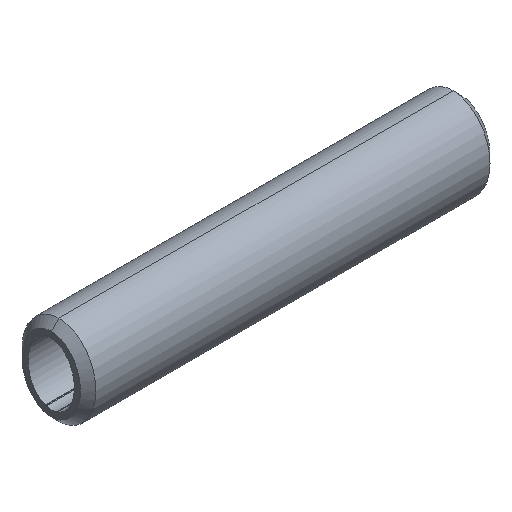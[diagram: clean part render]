
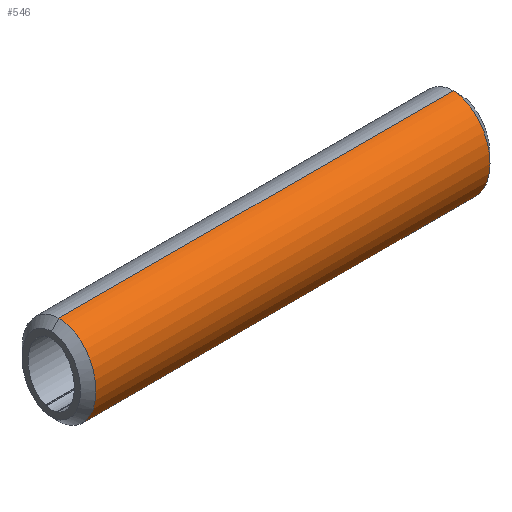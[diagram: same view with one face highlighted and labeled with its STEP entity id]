
A CAD part, isometric view. The second image highlights one B-rep face of the part: STEP entity #546.
In plain terms, the highlighted free-form (B-spline) face has degree [3, 1] with [4, 2] control points.
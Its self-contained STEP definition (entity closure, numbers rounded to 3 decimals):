
#63 = VECTOR ( 'NONE', #417, 1000. ) ;
#77 = LINE ( 'NONE', #416, #63 ) ;
#103 = LINE ( 'NONE', #491, #108 ) ;
#108 = VECTOR ( 'NONE', #492, 1000. ) ;
#116 = FACE_OUTER_BOUND ( 'NONE', #295, .T. ) ;
#171 = VERTEX_POINT ( 'NONE', #205 ) ;
#172 = VERTEX_POINT ( 'NONE', #258 ) ;
#205 = CARTESIAN_POINT ( 'NONE',  ( 2.5, 0., 14.5 ) ) ;
#209 = VERTEX_POINT ( 'NONE', #256 ) ;
#212 = VERTEX_POINT ( 'NONE', #570 ) ;
#220 =( BOUNDED_CURVE ( )  B_SPLINE_CURVE ( 3, ( #884, #885, #886, #887 ),
 .UNSPECIFIED., .F., .T. ) 
 B_SPLINE_CURVE_WITH_KNOTS ( ( 4, 4 ),
 ( 0.5, 1. ),
 .UNSPECIFIED. ) 
 CURVE ( )  GEOMETRIC_REPRESENTATION_ITEM ( )  RATIONAL_B_SPLINE_CURVE ( ( 1., 0.333, 0.333, 1. ) ) 
 REPRESENTATION_ITEM ( '' )  );
#230 =( BOUNDED_CURVE ( )  B_SPLINE_CURVE ( 3, ( #606, #607, #608, #609 ),
 .UNSPECIFIED., .F., .T. ) 
 B_SPLINE_CURVE_WITH_KNOTS ( ( 4, 4 ),
 ( 0., 0.5 ),
 .UNSPECIFIED. ) 
 CURVE ( )  GEOMETRIC_REPRESENTATION_ITEM ( )  RATIONAL_B_SPLINE_CURVE ( ( 1., 0.333, 0.333, 1. ) ) 
 REPRESENTATION_ITEM ( '' )  );
#240 =( BOUNDED_SURFACE ( )  B_SPLINE_SURFACE ( 3, 1, ( 
 ( #1084, #1085 ),
 ( #1086, #1087 ),
 ( #1088, #1089 ),
 ( #1090, #1091 ) ),
 .UNSPECIFIED., .F., .F., .F. ) 
 B_SPLINE_SURFACE_WITH_KNOTS ( ( 4, 4 ),
 ( 2, 2 ),
 ( 0., 1. ),
 ( 0., 1. ),
 .UNSPECIFIED. ) 
 GEOMETRIC_REPRESENTATION_ITEM ( )  RATIONAL_B_SPLINE_SURFACE ( (
 ( 1., 1.),
 ( 0.333, 0.333),
 ( 0.333, 0.333),
 ( 1., 1.) ) ) 
 REPRESENTATION_ITEM ( '' )  SURFACE ( )  );
#256 = CARTESIAN_POINT ( 'NONE',  ( 130.5, 0., -14.5 ) ) ;
#258 = CARTESIAN_POINT ( 'NONE',  ( 2.5, 0., -14.5 ) ) ;
#274 = ORIENTED_EDGE ( 'NONE', *, *, #1056, .T. ) ;
#295 = EDGE_LOOP ( 'NONE', ( #314, #296, #274, #298 ) ) ;
#296 = ORIENTED_EDGE ( 'NONE', *, *, #1001, .T. ) ;
#298 = ORIENTED_EDGE ( 'NONE', *, *, #1005, .F. ) ;
#314 = ORIENTED_EDGE ( 'NONE', *, *, #1020, .T. ) ;
#416 = CARTESIAN_POINT ( 'NONE',  ( 133., 0., -14.5 ) ) ;
#417 = DIRECTION ( 'NONE',  ( -1., 0., 0. ) ) ;
#491 = CARTESIAN_POINT ( 'NONE',  ( 133., 0., 14.5 ) ) ;
#492 = DIRECTION ( 'NONE',  ( -1., 0., 0. ) ) ;
#546 = ADVANCED_FACE ( 'NONE', ( #116 ), #240, .F. ) ;
#570 = CARTESIAN_POINT ( 'NONE',  ( 130.5, 0., 14.5 ) ) ;
#606 = CARTESIAN_POINT ( 'NONE',  ( 130.5, 0., -14.5 ) ) ;
#607 = CARTESIAN_POINT ( 'NONE',  ( 130.5, -24., -14.5 ) ) ;
#608 = CARTESIAN_POINT ( 'NONE',  ( 130.5, -24., 14.5 ) ) ;
#609 = CARTESIAN_POINT ( 'NONE',  ( 130.5, 0., 14.5 ) ) ;
#884 = CARTESIAN_POINT ( 'NONE',  ( 2.5, 0., 14.5 ) ) ;
#885 = CARTESIAN_POINT ( 'NONE',  ( 2.5, -24., 14.5 ) ) ;
#886 = CARTESIAN_POINT ( 'NONE',  ( 2.5, -24., -14.5 ) ) ;
#887 = CARTESIAN_POINT ( 'NONE',  ( 2.5, 0., -14.5 ) ) ;
#1001 = EDGE_CURVE ( 'NONE', #212, #171, #103, .T. ) ;
#1005 = EDGE_CURVE ( 'NONE', #209, #172, #77, .T. ) ;
#1020 = EDGE_CURVE ( 'NONE', #209, #212, #230, .T. ) ;
#1056 = EDGE_CURVE ( 'NONE', #171, #172, #220, .T. ) ;
#1084 = CARTESIAN_POINT ( 'NONE',  ( 130.5, 0., 14.5 ) ) ;
#1085 = CARTESIAN_POINT ( 'NONE',  ( 2.5, 0., 14.5 ) ) ;
#1086 = CARTESIAN_POINT ( 'NONE',  ( 130.5, -24., 14.5 ) ) ;
#1087 = CARTESIAN_POINT ( 'NONE',  ( 2.5, -24., 14.5 ) ) ;
#1088 = CARTESIAN_POINT ( 'NONE',  ( 130.5, -24., -14.5 ) ) ;
#1089 = CARTESIAN_POINT ( 'NONE',  ( 2.5, -24., -14.5 ) ) ;
#1090 = CARTESIAN_POINT ( 'NONE',  ( 130.5, 0., -14.5 ) ) ;
#1091 = CARTESIAN_POINT ( 'NONE',  ( 2.5, 0., -14.5 ) ) ;
